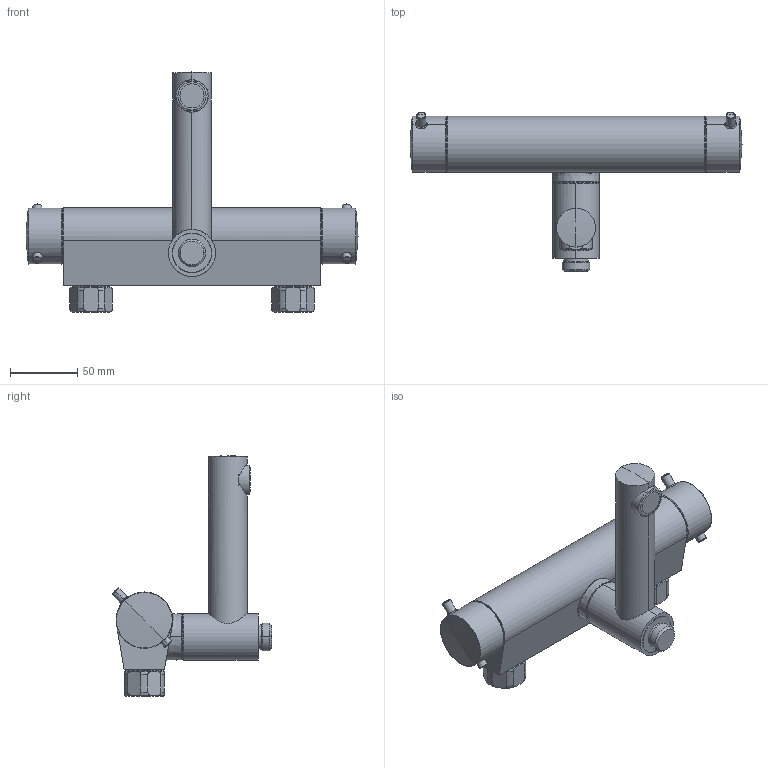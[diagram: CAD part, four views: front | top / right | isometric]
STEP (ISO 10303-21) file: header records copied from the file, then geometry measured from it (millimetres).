
FILE_DESCRIPTION((''),'2;1');
FILE_NAME('91510--35_SCRINKWRAP','2026-09-07T14:35:08',('clra1'),(''),'CREO PARAMETRIC BY PTC INC, 2022244','CREO PARAMETRIC BY PTC INC, 2022244','');
FILE_SCHEMA(('CONFIG_CONTROL_DESIGN'));
Length unit declared in the file: millimetre
Products named in the file (1): 91510--35_SCRINKWRAP
Bounding box: 247.41 x 119.02 x 179.2 mm (x, y, z)
Surface area: 83540.7 mm2 (no closed solid volume)
Topology: 0 solids, 47 shells, 276 faces, 888 edges, 608 vertices
Faces by surface type: torus 64, cone 59, cylinder 50, bspline 45, plane 42, sphere 16
Entity records: 12610 total; most frequent: CARTESIAN_POINT 5371, DIRECTION 1506, ORIENTED_EDGE 1386, EDGE_CURVE 866, AXIS2_PLACEMENT_3D 650, VERTEX_POINT 608, CIRCLE 419, EDGE_LOOP 276
